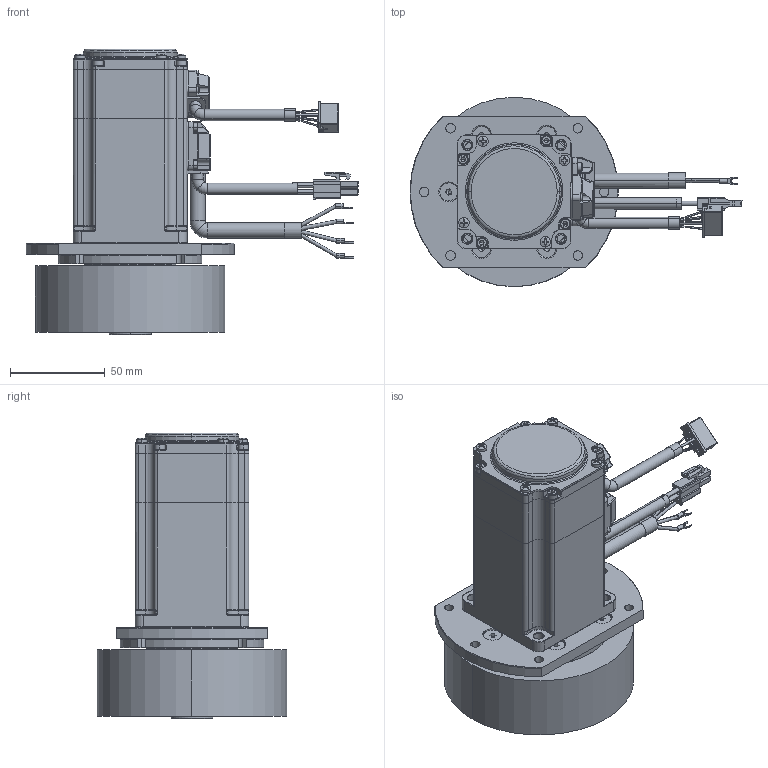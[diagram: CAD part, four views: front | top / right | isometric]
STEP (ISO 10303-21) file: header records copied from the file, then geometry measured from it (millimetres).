
FILE_DESCRIPTION((''),'2;1');
FILE_NAME('MSD100--040-30GSL-B_ASM','2026-05-22T11:52:33',('MS28159'),(''),'CREO PARAMETRIC BY PTC INC, 2018100','CREO PARAMETRIC BY PTC INC, 2018100','');
FILE_SCHEMA(('CONFIG_CONTROL_DESIGN'));
Length unit declared in the file: millimetre
Products named in the file (62): M5-10-10_10001_1_1; 060_10_JA214-021000001_1_1; M5-10-7-_10001_1_1; M5-10-11_10001_1_1; M5-10-12_10001_1_1; M5-10-8-_10001_1_1; 4394000102411_60SV0001_1_1; M5-10-9-_10001_1_1; NONE_1_2_1_1; 0226--1-SOLID1_1000_1_1; 60SV04302-0400K-045-GRX_X2_FF_1_ASM; ASM0009_ASM_1_ASM_1_ASM; M5_1000_1_1; 100_1_1; 3698201102700_60SV__X2_530580_2_ASM; 3698201102700_60SV0001_ASM_1_AS_ASM; ASM0008_ASM_1_ASM_1_ASM; MSD90--040-30GL-0001_ASM_1_ASM; _1_C-172165-1-H-3D0001_1; HEXAGONSOCKETHEADC0009_1; HEXAGONSOCKETHEADC0010_1; HEXAGONSOCKETHEADC0011_1; HEXAGONSOCKETHEADC0012_1; _1-SOLID10001_1_1; _1_-1-SOLID10001_1; CROSSRECESSEDSMALL0009_1; 001-1-SOLID10001_1; _1_5016461600-1-SO0001_1; CROSSRECESSEDSMALL0010_1; HEXAGONSOCKETHEADC0013_1; _-1-SOLID10001_1; _1_429443800025-1-0001_1; _-1-SOLID10002_1; _1_AGV-2-SOLID10001_1; CROSSRECESSEDCOUNT0004_1; CROSSRECESSEDCOUNT0005_1; CROSSRECESSEDCOUNT0006_1; _1_--1-SOLID10001_1; 3698154002195-1-SOLID1_1; HEXAGONSOCKETHEADC0014_1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
Assembly tree (61 placements, depth 6):
  MSD100--040-30GSL-B_ASM
    MSD90--040-30GL-0001_ASM_1_ASM
      ASM0008_ASM_1_ASM_1_ASM
        ASM0009_ASM_1_ASM_1_ASM
          60SV04302-0400K-045-GRX_X2_FF_1_ASM
            M5-10-10_10001_1_1
            060_10_JA214-021000001_1_1
            M5-10-7-_10001_1_1
            M5-10-11_10001_1_1
            M5-10-12_10001_1_1
            M5-10-8-_10001_1_1
            4394000102411_60SV0001_1_1
            M5-10-9-_10001_1_1
            NONE_1_2_1_1
            0226--1-SOLID1_1000_1_1
        3698201102700_60SV0001_ASM_1_AS_ASM
          3698201102700_60SV__X2_530580_2_ASM
            M5_1000_1_1
            100_1_1
    SM0602GSL-KCY-BNN-10_ASM
      4611170005890_ASM_1_ASM
        _1_C-172165-1-H-3D0001_1
        HEXAGONSOCKETHEADC0009_1
        HEXAGONSOCKETHEADC0010_1
        HEXAGONSOCKETHEADC0011_1
        HEXAGONSOCKETHEADC0012_1
        _1-SOLID10001_1_1
        _1_-1-SOLID10001_1
        CROSSRECESSEDSMALL0009_1
        001-1-SOLID10001_1
        _1_5016461600-1-SO0001_1
        CROSSRECESSEDSMALL0010_1
        HEXAGONSOCKETHEADC0013_1
        _-1-SOLID10001_1
        _1_429443800025-1-0001_1
        _-1-SOLID10002_1
        _1_AGV-2-SOLID10001_1
        CROSSRECESSEDCOUNT0004_1
        CROSSRECESSEDCOUNT0005_1
        CROSSRECESSEDCOUNT0006_1
        _1_--1-SOLID10001_1
        3698154002195-1-SOLID1_1
        HEXAGONSOCKETHEADC0014_1
        _1_-1-SOLID10002_1
        HEXAGONSOCKETHEADC0015_1
        CROSSRECESSEDSMALL0011_1
        CROSSRECESSEDSMALL0012_1
        _1_AGV-1-SOLID10001_1
        _1_AGV-3-SOLID10001_1
        HEXAGONSOCKETHEADC0016_1
        CROSSRECESSEDSMALL0013_1
        _1_AGV-4-SOLID10001_1
        _1_--1-SOLID10002_1
        CROSSRECESSEDSMALL0014_1
        CROSSRECESSEDSMALL0015_1
        CROSSRECESSEDSMALL0016_1
        _110001_1
        _140001_1
        _120001_1
        _220001_1
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Bounding box: 175.29 x 100 x 151 mm (x, y, z)
Volume: 407773.4 mm3; surface area: 187663.4 mm2
Topology: 53 solids, 57 shells, 2911 faces, 7627 edges, 4818 vertices
Faces by surface type: plane 1290, cylinder 992, torus 276, cone 227, sphere 78, bspline 30, extrusion 18
Entity records: 95753 total; most frequent: CARTESIAN_POINT 21239, DIRECTION 16157, ORIENTED_EDGE 15006, EDGE_CURVE 7503, AXIS2_PLACEMENT_3D 6097, VERTEX_POINT 4818, VECTOR 3963, LINE 3945
